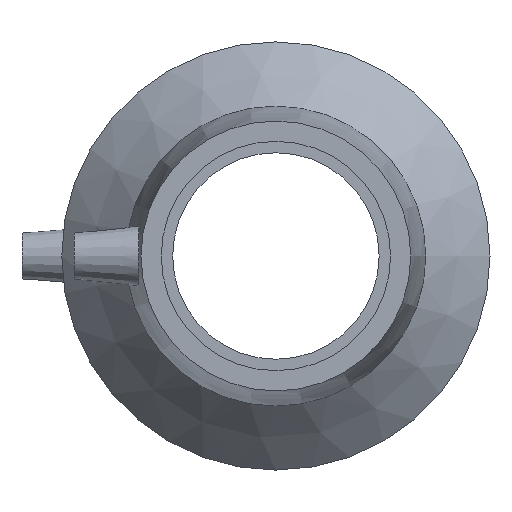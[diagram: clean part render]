
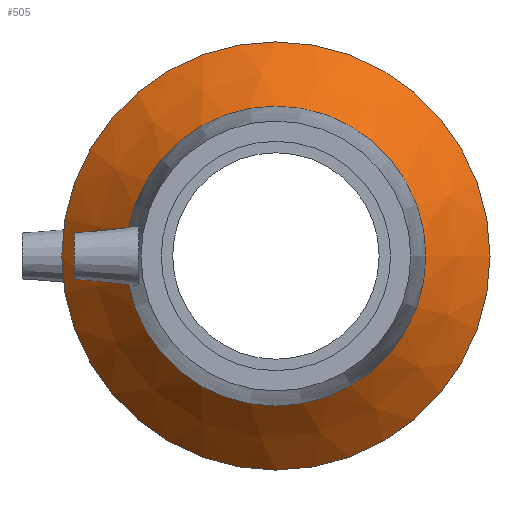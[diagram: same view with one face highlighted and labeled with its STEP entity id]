
A CAD part, left-side view. The second image highlights one B-rep face of the part: STEP entity #505.
In plain terms, the highlighted conical face has half-angle 45 degrees and reference radius 59.5 mm.
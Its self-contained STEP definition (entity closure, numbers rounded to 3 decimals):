
#21=CONICAL_SURFACE('',#571,59.5,0.785);
#46=LINE('',#936,#65);
#65=VECTOR('',#694,59.5);
#101=FACE_OUTER_BOUND('',#136,.T.);
#136=EDGE_LOOP('',(#380,#381,#382,#383,#384,#385));
#173=CIRCLE('',#567,49.);
#174=CIRCLE('',#568,49.);
#177=CIRCLE('',#572,70.);
#178=CIRCLE('',#573,70.);
#226=VERTEX_POINT('',#922);
#227=VERTEX_POINT('',#923);
#230=VERTEX_POINT('',#932);
#231=VERTEX_POINT('',#933);
#285=EDGE_CURVE('',#226,#227,#173,.T.);
#286=EDGE_CURVE('',#227,#226,#174,.T.);
#290=EDGE_CURVE('',#230,#231,#177,.T.);
#291=EDGE_CURVE('',#231,#230,#178,.T.);
#292=EDGE_CURVE('',#231,#227,#46,.T.);
#380=ORIENTED_EDGE('',*,*,#290,.F.);
#381=ORIENTED_EDGE('',*,*,#291,.F.);
#382=ORIENTED_EDGE('',*,*,#292,.T.);
#383=ORIENTED_EDGE('',*,*,#286,.T.);
#384=ORIENTED_EDGE('',*,*,#285,.T.);
#385=ORIENTED_EDGE('',*,*,#292,.F.);
#505=ADVANCED_FACE('',(#101),#21,.T.);
#567=AXIS2_PLACEMENT_3D('',#924,#679,#680);
#568=AXIS2_PLACEMENT_3D('',#925,#681,#682);
#571=AXIS2_PLACEMENT_3D('',#931,#688,#689);
#572=AXIS2_PLACEMENT_3D('',#934,#690,#691);
#573=AXIS2_PLACEMENT_3D('',#935,#692,#693);
#679=DIRECTION('center_axis',(1.,0.,0.));
#680=DIRECTION('ref_axis',(0.,0.,-1.));
#681=DIRECTION('center_axis',(1.,0.,0.));
#682=DIRECTION('ref_axis',(0.,0.,-1.));
#688=DIRECTION('center_axis',(1.,0.,0.));
#689=DIRECTION('ref_axis',(0.,1.,0.));
#690=DIRECTION('center_axis',(1.,0.,0.));
#691=DIRECTION('ref_axis',(0.,0.,-1.));
#692=DIRECTION('center_axis',(1.,0.,0.));
#693=DIRECTION('ref_axis',(0.,0.,-1.));
#694=DIRECTION('',(-0.707,0.707,0.));
#922=CARTESIAN_POINT('',(-26.45,49.,0.));
#923=CARTESIAN_POINT('',(-26.45,-49.,0.));
#924=CARTESIAN_POINT('Origin',(-26.45,0.,0.));
#925=CARTESIAN_POINT('Origin',(-26.45,0.,0.));
#931=CARTESIAN_POINT('Origin',(-15.95,0.,0.));
#932=CARTESIAN_POINT('',(-5.45,70.,0.));
#933=CARTESIAN_POINT('',(-5.45,-70.,0.));
#934=CARTESIAN_POINT('Origin',(-5.45,0.,0.));
#935=CARTESIAN_POINT('Origin',(-5.45,0.,0.));
#936=CARTESIAN_POINT('',(-15.95,-59.5,0.));
